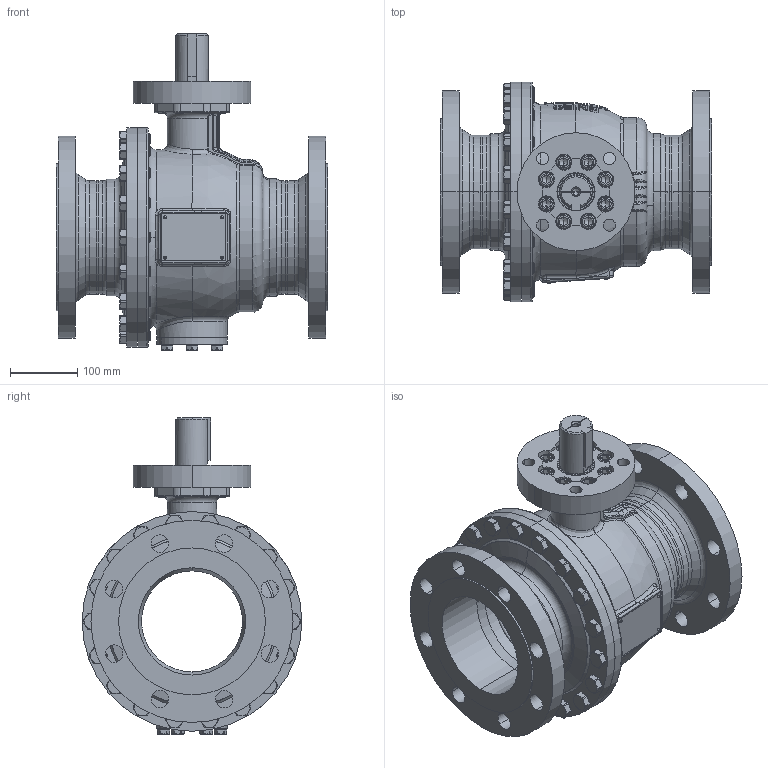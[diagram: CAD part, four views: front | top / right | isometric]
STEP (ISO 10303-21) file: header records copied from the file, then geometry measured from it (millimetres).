
FILE_DESCRIPTION((''),'2;1');
FILE_NAME('KHI-F_150_PN040-F14-P_SW0001','2026-02-05T10:53:02',('fischerkl'),('KLINGER'),'CREO PARAMETRIC BY PTC INC, 2023014','CREO PARAMETRIC BY PTC INC, 2023014','');
FILE_SCHEMA(('CONFIG_CONTROL_DESIGN'));
Products named in the file (1): KHI-F_150_PN040-F14-P_SW0001
Bounding box: 403 x 326 x 469.2 mm (x, y, z)
Volume: 8826302.6 mm3; surface area: 1609375 mm2
Topology: 1 solids, 4 shells, 3724 faces, 9564 edges, 5969 vertices
Faces by surface type: plane 2283, cylinder 680, cone 362, torus 258, bspline 113, sphere 28
Entity records: 144686 total; most frequent: CARTESIAN_POINT 56460, ORIENTED_EDGE 19076, DIRECTION 17435, EDGE_CURVE 9538, AXIS2_PLACEMENT_3D 6146, VERTEX_POINT 5969, VECTOR 5143, LINE 5143
